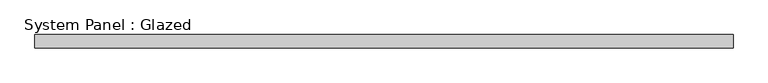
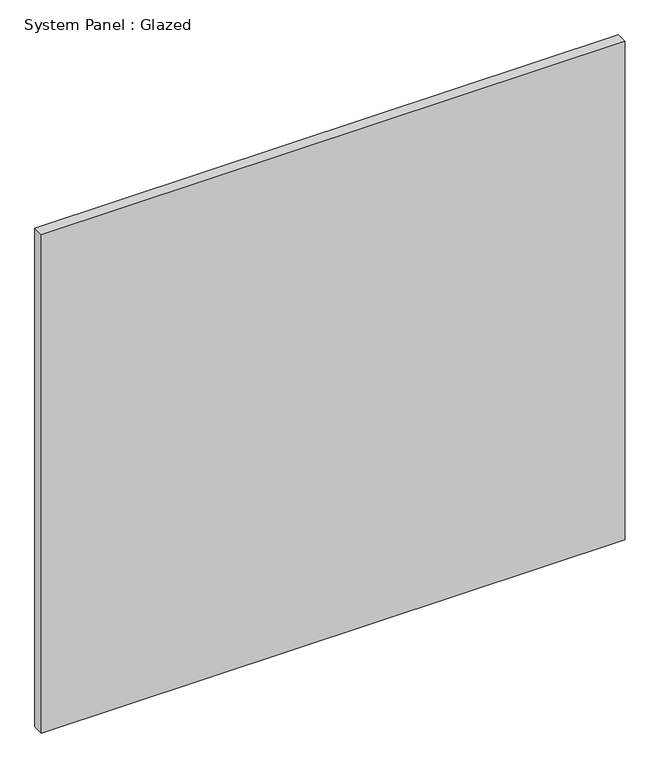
"""IFC4 building model written with IfcOpenShell, lengths in millimetres: plate geometry, System Panel : Glazed."""

from ifc_helpers import new_model, si_unit, origin, origin_with_axes, place, context, project, spatial, polyline, outline, extrude, source, transform, mapped, element, save


def system_panel_glazed_b53cd975(model_context):
    return source(origin(), model_context, "Body", "SweptSolid", [
        extrude(outline(polyline([(651.2606048, -49.5), (-651.2606048, -49.5), (-651.2606048, -24.5), (651.2606048, -24.5), (651.2606048, -49.5)])), origin_with_axes(), (0.0, 0.0, 1.0), 1175.0),
    ])


if __name__ == "__main__":
    model = new_model("IFC4")
    model_context = context("Model", 3, world=origin())
    ifc_project = project(units=[si_unit("LENGTHUNIT", "METRE", prefix="MILLI")], contexts=[model_context])
    site = spatial("IfcSite", under=ifc_project)
    building = spatial("IfcBuilding", under=site)
    placement = place(None, origin())
    system_panel_glazed_shape = system_panel_glazed_b53cd975(model_context)
    element("IfcPlate", 1, ObjectType="System Panel : Glazed", at=placement, inside=building, context=model_context, shape_type="MappedRepresentation", body=[
        mapped(system_panel_glazed_shape, transform((0.0, 0.0, 0.0), x_axis=(1.0, 0.0, 0.0), y_axis=(0.0, 1.0, 0.0), z_axis=(0.0, 0.0, 1.0))),
    ])
    save(model, "model.ifc")
